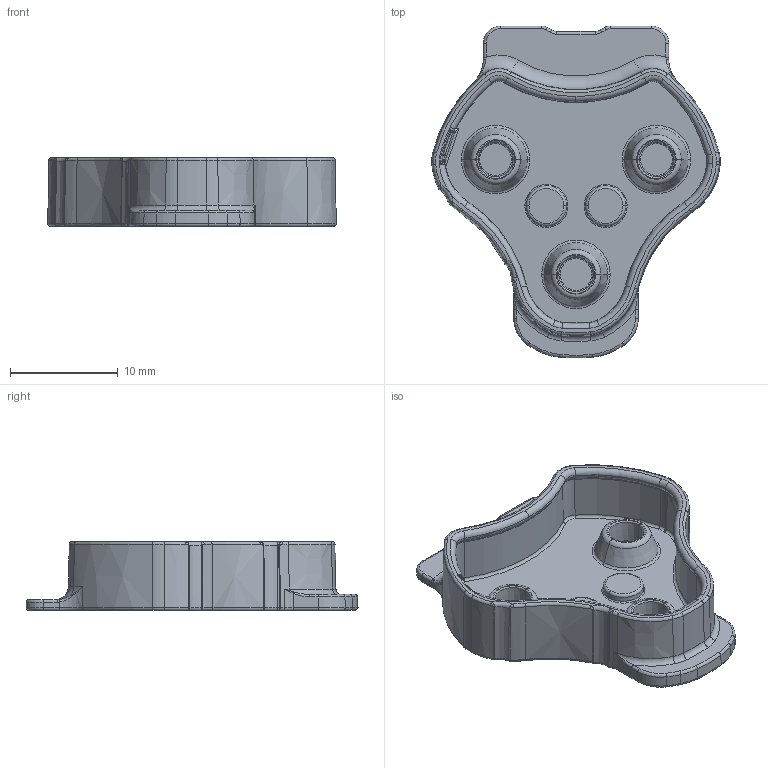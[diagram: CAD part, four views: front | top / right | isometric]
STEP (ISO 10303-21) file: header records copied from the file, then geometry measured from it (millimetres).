
FILE_DESCRIPTION (( 'STEP AP214' ), '1' );
FILE_NAME ('EtherPath CPM-S Light Pipe Cover.STEP', '2023-06-27T16:50:20', ( '' ), ( '' ), 'SwSTEP 2.0', 'SolidWorks 2020', '' );
FILE_SCHEMA (( 'AUTOMOTIVE_DESIGN' ));
Length unit declared in the file: millimetre
Products named in the file (1): EtherPath CPM-S Light Pipe Cover
Bounding box: 26.77 x 30.81 x 6.4 mm (x, y, z)
Volume: 1063.3 mm3; surface area: 2192.8 mm2
Topology: 1 solids, 1 shells, 565 faces, 1370 edges, 819 vertices
Faces by surface type: torus 192, plane 139, bspline 126, cone 78, cylinder 26, sphere 4
Entity records: 18725 total; most frequent: CARTESIAN_POINT 6156, ORIENTED_EDGE 2716, DIRECTION 2567, EDGE_CURVE 1358, AXIS2_PLACEMENT_3D 1068, VERTEX_POINT 819, CIRCLE 628, EDGE_LOOP 589
